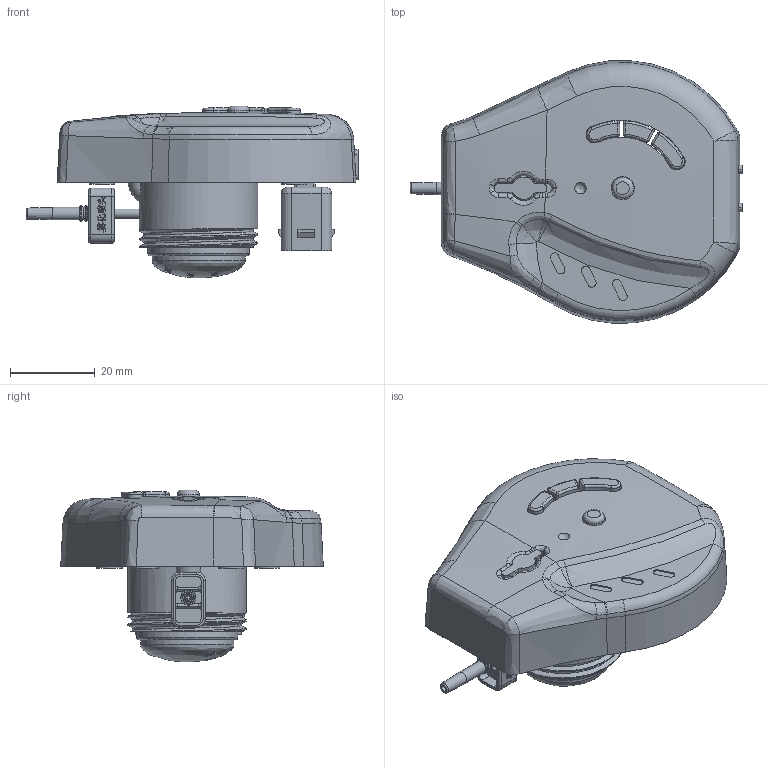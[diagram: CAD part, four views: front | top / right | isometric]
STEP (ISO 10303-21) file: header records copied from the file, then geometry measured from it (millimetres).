
FILE_DESCRIPTION(/* description */ (''),/* implementation_level */ '2;1');
FILE_NAME(/* name */ '样题6.stp',/* time_stamp */ '2023-04-15T14:58:28+08:00',/* author */ (''),/* organization */ (''),/* preprocessor_version */ 'ST-DEVELOPER v16.7',/* originating_system */ 'SIEMENS PLM Software NX 12.0',/* authorisation */ '');
FILE_SCHEMA (('AUTOMOTIVE_DESIGN { 1 0 10303 214 3 1 1 1 }'));
Length unit declared in the file: millimetre
Products named in the file (1): 样题6
Bounding box: 78.48 x 62.08 x 40.57 mm (x, y, z)
Volume: 19318.9 mm3; surface area: 24711.3 mm2
Topology: 11 solids, 13 shells, 1011 faces, 2676 edges, 1725 vertices
Faces by surface type: plane 453, cylinder 190, bspline 147, extrusion 129, torus 70, sphere 17, cone 5
Full cylindrical faces by diameter (mm): 1 x4, 1.2 x1, 1.26 x1, 1.36 x4, 1.5 x1, 1.76 x2, 1.956 x1, 2.26 x2, 2.94 x3, 3 x6, 3.612 x2, 5.075 x1, 5.475 x1, 5.8 x1, 6 x6, 19 x2, 22 x1, 23.979 x1, 26 x1, 28 x2
Entity records: 43768 total; most frequent: CARTESIAN_POINT 21112, ORIENTED_EDGE 4996, DIRECTION 3872, EDGE_CURVE 2498, VERTEX_POINT 1647, VECTOR 1352, AXIS2_PLACEMENT_3D 1260, LINE 1223
